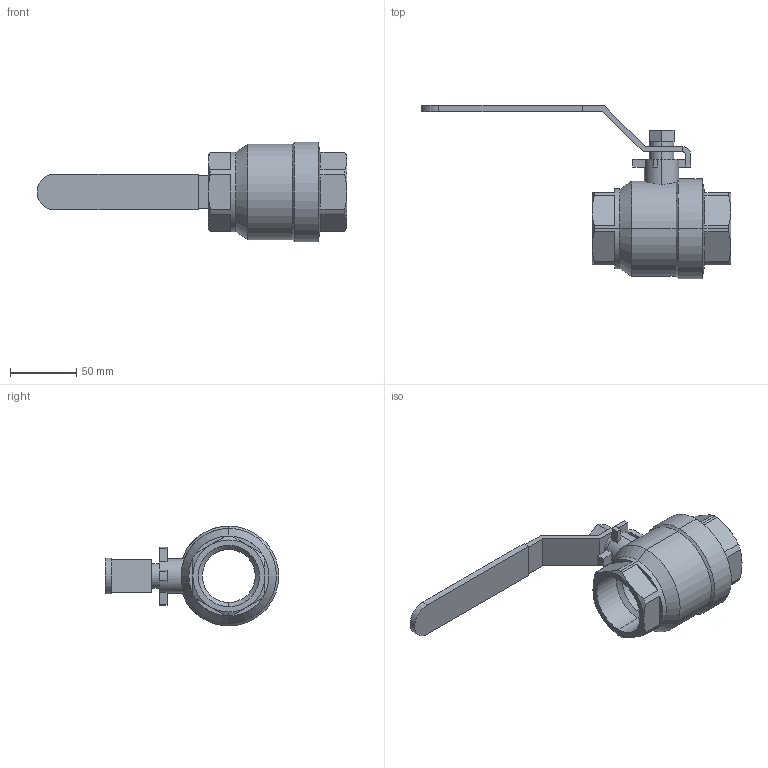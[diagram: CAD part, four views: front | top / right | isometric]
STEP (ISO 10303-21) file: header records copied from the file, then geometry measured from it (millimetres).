
FILE_DESCRIPTION (( 'STEP AP203' ), '1' );
FILE_NAME ('B3.622I040XFVPB0.STEP', '2018-12-14T10:35:10', ( 'dell2' ), ( 'Microsoft' ), 'SwSTEP 2.0', 'SolidWorks 2017', '' );
FILE_SCHEMA (( 'CONFIG_CONTROL_DESIGN' ));
Length unit declared in the file: millimetre
Products named in the file (1): B3.622I040XFVPB0
Bounding box: 234.5 x 131.25 x 75.5 mm (x, y, z)
Volume: 256999 mm3; surface area: 56734.9 mm2
Topology: 1 solids, 1 shells, 119 faces, 299 edges, 187 vertices
Faces by surface type: plane 61, cylinder 33, cone 25
Entity records: 3859 total; most frequent: CARTESIAN_POINT 918, DIRECTION 604, ORIENTED_EDGE 598, EDGE_CURVE 299, AXIS2_PLACEMENT_3D 221, VERTEX_POINT 187, VECTOR 162, LINE 162
